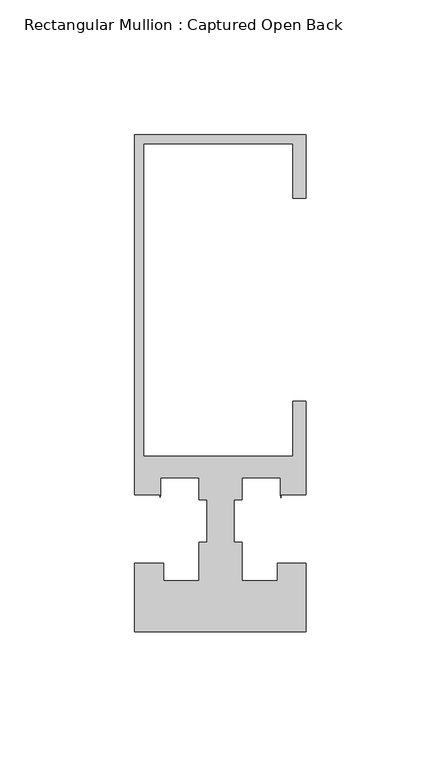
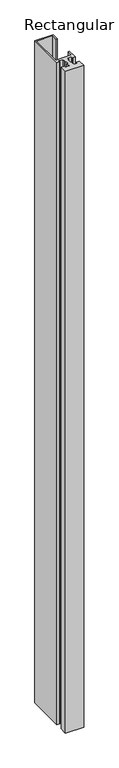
"""IFC4 building model written with IfcOpenShell, lengths in millimetres: member geometry, Rectangular Mullion : Captured Open Back."""

from ifc_helpers import new_model, si_unit, frame, origin, place, context, project, spatial, polyline, outline, extrude, source, transform, mapped, element, save


def rectangular_mullion_captured_open_back_95a6e40a(model_context):
    return source(origin(), model_context, "Body", "SweptSolid", [
        extrude(outline(polyline([(0.0, 114.3), (0.0, 90.8721193), (-4.7830665, 90.8721193), (-4.7830665, 111.1250145), (-60.3449493, 111.1250145), (-60.3449493, -4.7625735), (-4.7830665, -4.7625735), (-4.7830665, 15.5833982), (0.0, 15.5833982), (0.0, -18.933673), (-9.3791839, -18.933673), (-9.3791839, -20.0839351), (-9.5454538, -18.933673), (-9.5454538, -12.7), (-23.7289004, -12.7), (-23.7289004, -20.8793999), (-26.7817813, -20.8793999), (-26.7817813, -36.6491027), (-23.833119, -36.6491027), (-23.833119, -50.8001709), (-10.6860183, -50.8001709), (-10.6860183, -44.4245655), (0.0, -44.4245655), (0.0, -69.8502416), (-63.5, -69.8502416), (-63.5, -44.4247364), (-52.7976545, -44.4247364), (-52.7976545, -50.8001709), (-39.7081202, -50.8001709), (-39.7081202, -36.6491027), (-36.7345137, -36.6491027), (-36.7345137, -20.8793999), (-39.7081204, -20.8793999), (-39.7081204, -12.7), (-53.9955753, -12.7), (-53.9955753, -18.948961), (-54.1818814, -19.8905485), (-54.1818814, -18.9488461), (-63.5205663, -18.9488461), (-63.5205663, 114.3), (0.0, 114.3)])), frame((0.0, 0.0, -2438.4), z_axis=(0.0, 0.0, 1.0), x_axis=(1.0, 0.0, 0.0)), (0.0, 0.0, 1.0), 2438.4),
    ])


if __name__ == "__main__":
    model = new_model("IFC4")
    model_context = context("Model", 3, world=origin())
    ifc_project = project(units=[si_unit("LENGTHUNIT", "METRE", prefix="MILLI")], contexts=[model_context])
    site = spatial("IfcSite", under=ifc_project)
    building = spatial("IfcBuilding", under=site)
    placement = place(None, origin())
    rectangular_mullion_captured_open_back_shape = rectangular_mullion_captured_open_back_95a6e40a(model_context)
    element("IfcMember", 1, ObjectType="Rectangular Mullion : Captured Open Back", at=placement, inside=building, context=model_context, shape_type="MappedRepresentation", body=[
        mapped(rectangular_mullion_captured_open_back_shape, transform((0.0, 0.0, 0.0), x_axis=(1.0, 0.0, 0.0), y_axis=(0.0, 1.0, 0.0), z_axis=(0.0, 0.0, 1.0))),
    ])
    save(model, "model.ifc")
